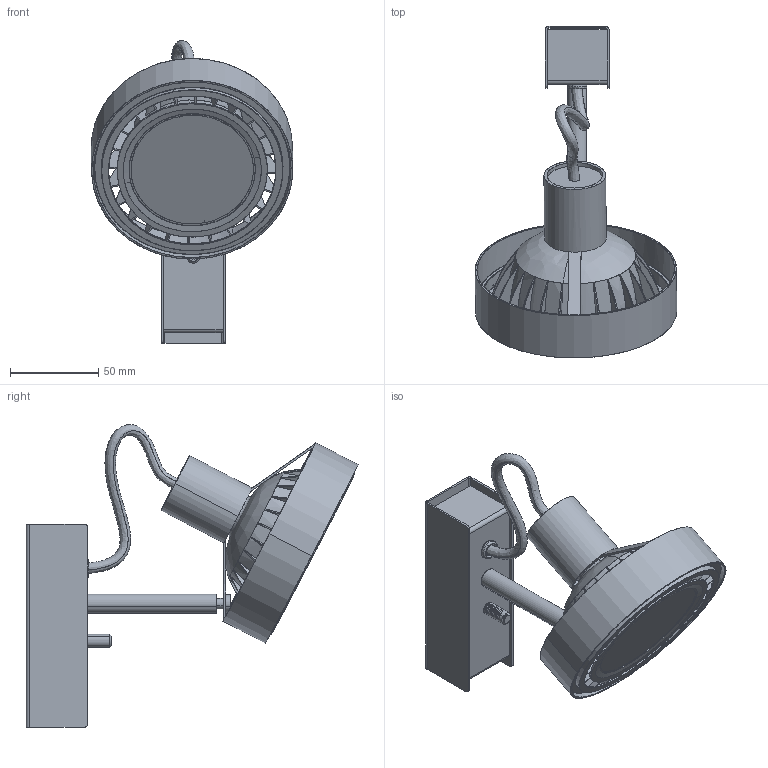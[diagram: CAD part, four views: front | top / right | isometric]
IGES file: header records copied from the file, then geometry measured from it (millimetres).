
Start section: SolidWorks IGES file using analytic representation for surfaces
Global section: file name: Z:\Modele 3D_WWW\_KOLEKCJE_WWW\CROSS\CROSS-I-9603-9598\CROSS-I-9603-9598.IGS; native system: SolidWorks 2021; preprocessor: SolidWorks 2021; author: gabriela.tworek; date: 210701.142400; units: millimetre
Bounding box: 114.23 x 188.04 x 171.42 mm (x, y, z)
Surface area: 129342.8 mm2 (no closed solid volume)
Topology: 0 solids, 0 shells, 620 faces, 7074 edges, 7068 vertices
Faces by surface type: bspline 361, revolution 259
